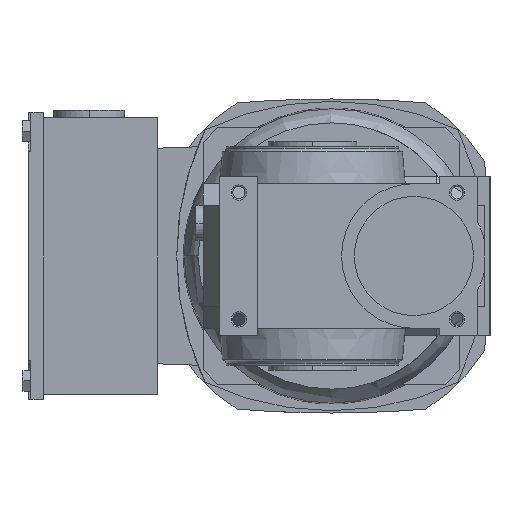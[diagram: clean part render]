
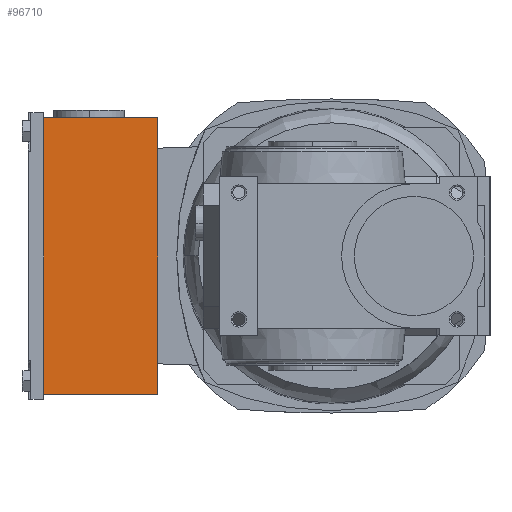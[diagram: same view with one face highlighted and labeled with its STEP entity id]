
A CAD part, left-side view. The second image highlights one B-rep face of the part: STEP entity #96710.
In plain terms, the highlighted planar face has unit normal (-1, 0, 0) as drawn and (0, 0, -1) by its records, which use the part's own axes.
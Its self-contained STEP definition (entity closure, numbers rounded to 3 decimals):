
#78070=CARTESIAN_POINT('',(31.,105.,-54.5));
#78080=VERTEX_POINT('',#78070);
#78110=CARTESIAN_POINT('',(84.818,105.,-54.5));
#78120=DIRECTION('',(1.,0.,0.));
#78130=VECTOR('',#78120,1.);
#78140=LINE('',#78110,#78130);
#78150=CARTESIAN_POINT('',(140.,105.,-54.5));
#78160=VERTEX_POINT('',#78150);
#78170=EDGE_CURVE('',#78080,#78160,#78140,.T.);
#96350=CARTESIAN_POINT('',(31.,60.,-54.5));
#96360=VERTEX_POINT('',#96350);
#96390=CARTESIAN_POINT('',(31.,105.,-54.5));
#96400=DIRECTION('',(0.,-1.,0.));
#96410=VECTOR('',#96400,1.);
#96420=LINE('',#96390,#96410);
#96430=EDGE_CURVE('',#78080,#96360,#96420,.T.);
#96480=CARTESIAN_POINT('',(140.,105.,-54.5));
#96490=DIRECTION('',(0.,0.,-1.));
#96500=DIRECTION('',(-1.,0.,0.));
#96510=AXIS2_PLACEMENT_3D('',#96480,#96490,#96500);
#96520=PLANE('',#96510);
#96530=ORIENTED_EDGE('',*,*,#96430,.F.);
#96540=CARTESIAN_POINT('',(140.,60.,-54.5));
#96550=DIRECTION('',(-1.,0.,0.));
#96560=VECTOR('',#96550,1.);
#96570=LINE('',#96540,#96560);
#96580=CARTESIAN_POINT('',(140.,60.,-54.5));
#96590=VERTEX_POINT('',#96580);
#96600=EDGE_CURVE('',#96590,#96360,#96570,.T.);
#96610=ORIENTED_EDGE('',*,*,#96600,.T.);
#96620=CARTESIAN_POINT('',(140.,105.,-54.5));
#96630=DIRECTION('',(0.,1.,0.));
#96640=VECTOR('',#96630,1.);
#96650=LINE('',#96620,#96640);
#96660=EDGE_CURVE('',#96590,#78160,#96650,.T.);
#96670=ORIENTED_EDGE('',*,*,#96660,.F.);
#96680=ORIENTED_EDGE('',*,*,#78170,.T.);
#96690=EDGE_LOOP('',(#96680,#96670,#96610,#96530));
#96700=FACE_OUTER_BOUND('',#96690,.T.);
#96710=ADVANCED_FACE('',(#96700),#96520,.T.);
